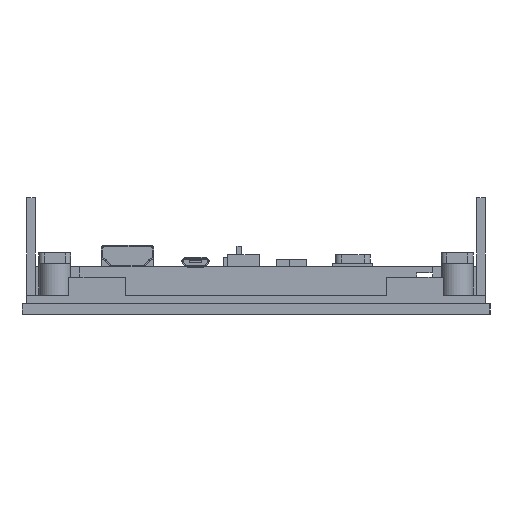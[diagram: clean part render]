
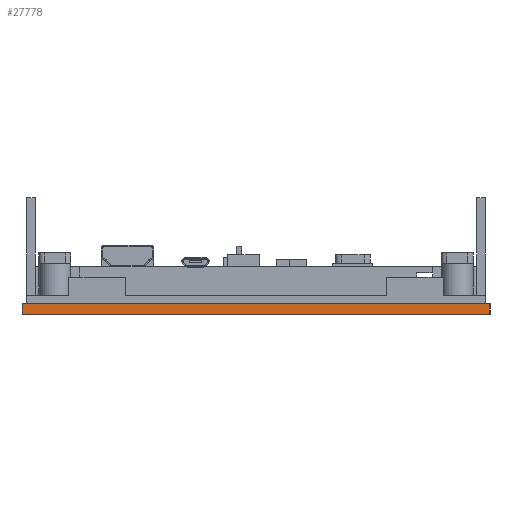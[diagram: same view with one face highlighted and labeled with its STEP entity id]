
A CAD part, left-side view. The second image highlights one B-rep face of the part: STEP entity #27778.
In plain terms, the highlighted planar face has unit normal (-1, 0, 0).
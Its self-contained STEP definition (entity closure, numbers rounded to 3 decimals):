
#27778 = ADVANCED_FACE('',(#27779),#27793,.F.);
#27779 = FACE_BOUND('',#27780,.F.);
#27780 = EDGE_LOOP('',(#27781,#27816,#27844,#27872));
#27781 = ORIENTED_EDGE('',*,*,#27782,.F.);
#27782 = EDGE_CURVE('',#27783,#27785,#27787,.T.);
#27783 = VERTEX_POINT('',#27784);
#27784 = CARTESIAN_POINT('',(-127.,-66.275,0.));
#27785 = VERTEX_POINT('',#27786);
#27786 = CARTESIAN_POINT('',(-127.,-66.275,3.));
#27787 = SURFACE_CURVE('',#27788,(#27792,#27804),.PCURVE_S1.);
#27788 = LINE('',#27789,#27790);
#27789 = CARTESIAN_POINT('',(-127.,-66.275,0.));
#27790 = VECTOR('',#27791,1.);
#27791 = DIRECTION('',(0.,0.,1.));
#27792 = PCURVE('',#27793,#27798);
#27793 = PLANE('',#27794);
#27794 = AXIS2_PLACEMENT_3D('',#27795,#27796,#27797);
#27795 = CARTESIAN_POINT('',(-127.,-66.275,0.));
#27796 = DIRECTION('',(1.,0.,0.));
#27797 = DIRECTION('',(0.,0.,1.));
#27798 = DEFINITIONAL_REPRESENTATION('',(#27799),#27803);
#27799 = LINE('',#27800,#27801);
#27800 = CARTESIAN_POINT('',(0.,0.));
#27801 = VECTOR('',#27802,1.);
#27802 = DIRECTION('',(1.,0.));
#27803 = ( GEOMETRIC_REPRESENTATION_CONTEXT(2) 
PARAMETRIC_REPRESENTATION_CONTEXT() REPRESENTATION_CONTEXT('2D SPACE',''
  ) );
#27804 = PCURVE('',#27805,#27810);
#27805 = PLANE('',#27806);
#27806 = AXIS2_PLACEMENT_3D('',#27807,#27808,#27809);
#27807 = CARTESIAN_POINT('',(-127.,-66.275,0.));
#27808 = DIRECTION('',(0.,1.,0.));
#27809 = DIRECTION('',(0.,0.,1.));
#27810 = DEFINITIONAL_REPRESENTATION('',(#27811),#27815);
#27811 = LINE('',#27812,#27813);
#27812 = CARTESIAN_POINT('',(0.,0.));
#27813 = VECTOR('',#27814,1.);
#27814 = DIRECTION('',(1.,0.));
#27815 = ( GEOMETRIC_REPRESENTATION_CONTEXT(2) 
PARAMETRIC_REPRESENTATION_CONTEXT() REPRESENTATION_CONTEXT('2D SPACE',''
  ) );
#27816 = ORIENTED_EDGE('',*,*,#27817,.T.);
#27817 = EDGE_CURVE('',#27783,#27818,#27820,.T.);
#27818 = VERTEX_POINT('',#27819);
#27819 = CARTESIAN_POINT('',(-127.,66.275,0.));
#27820 = SURFACE_CURVE('',#27821,(#27825,#27832),.PCURVE_S1.);
#27821 = LINE('',#27822,#27823);
#27822 = CARTESIAN_POINT('',(-127.,-66.275,0.));
#27823 = VECTOR('',#27824,1.);
#27824 = DIRECTION('',(0.,1.,0.));
#27825 = PCURVE('',#27793,#27826);
#27826 = DEFINITIONAL_REPRESENTATION('',(#27827),#27831);
#27827 = LINE('',#27828,#27829);
#27828 = CARTESIAN_POINT('',(0.,0.));
#27829 = VECTOR('',#27830,1.);
#27830 = DIRECTION('',(0.,-1.));
#27831 = ( GEOMETRIC_REPRESENTATION_CONTEXT(2) 
PARAMETRIC_REPRESENTATION_CONTEXT() REPRESENTATION_CONTEXT('2D SPACE',''
  ) );
#27832 = PCURVE('',#27833,#27838);
#27833 = PLANE('',#27834);
#27834 = AXIS2_PLACEMENT_3D('',#27835,#27836,#27837);
#27835 = CARTESIAN_POINT('',(-127.,-66.275,0.));
#27836 = DIRECTION('',(0.,0.,1.));
#27837 = DIRECTION('',(1.,0.,0.));
#27838 = DEFINITIONAL_REPRESENTATION('',(#27839),#27843);
#27839 = LINE('',#27840,#27841);
#27840 = CARTESIAN_POINT('',(0.,0.));
#27841 = VECTOR('',#27842,1.);
#27842 = DIRECTION('',(0.,1.));
#27843 = ( GEOMETRIC_REPRESENTATION_CONTEXT(2) 
PARAMETRIC_REPRESENTATION_CONTEXT() REPRESENTATION_CONTEXT('2D SPACE',''
  ) );
#27844 = ORIENTED_EDGE('',*,*,#27845,.T.);
#27845 = EDGE_CURVE('',#27818,#27846,#27848,.T.);
#27846 = VERTEX_POINT('',#27847);
#27847 = CARTESIAN_POINT('',(-127.,66.275,3.));
#27848 = SURFACE_CURVE('',#27849,(#27853,#27860),.PCURVE_S1.);
#27849 = LINE('',#27850,#27851);
#27850 = CARTESIAN_POINT('',(-127.,66.275,0.));
#27851 = VECTOR('',#27852,1.);
#27852 = DIRECTION('',(0.,0.,1.));
#27853 = PCURVE('',#27793,#27854);
#27854 = DEFINITIONAL_REPRESENTATION('',(#27855),#27859);
#27855 = LINE('',#27856,#27857);
#27856 = CARTESIAN_POINT('',(0.,-132.55));
#27857 = VECTOR('',#27858,1.);
#27858 = DIRECTION('',(1.,0.));
#27859 = ( GEOMETRIC_REPRESENTATION_CONTEXT(2) 
PARAMETRIC_REPRESENTATION_CONTEXT() REPRESENTATION_CONTEXT('2D SPACE',''
  ) );
#27860 = PCURVE('',#27861,#27866);
#27861 = PLANE('',#27862);
#27862 = AXIS2_PLACEMENT_3D('',#27863,#27864,#27865);
#27863 = CARTESIAN_POINT('',(-127.,66.275,0.));
#27864 = DIRECTION('',(0.,1.,0.));
#27865 = DIRECTION('',(0.,0.,1.));
#27866 = DEFINITIONAL_REPRESENTATION('',(#27867),#27871);
#27867 = LINE('',#27868,#27869);
#27868 = CARTESIAN_POINT('',(0.,0.));
#27869 = VECTOR('',#27870,1.);
#27870 = DIRECTION('',(1.,0.));
#27871 = ( GEOMETRIC_REPRESENTATION_CONTEXT(2) 
PARAMETRIC_REPRESENTATION_CONTEXT() REPRESENTATION_CONTEXT('2D SPACE',''
  ) );
#27872 = ORIENTED_EDGE('',*,*,#27873,.F.);
#27873 = EDGE_CURVE('',#27785,#27846,#27874,.T.);
#27874 = SURFACE_CURVE('',#27875,(#27879,#27886),.PCURVE_S1.);
#27875 = LINE('',#27876,#27877);
#27876 = CARTESIAN_POINT('',(-127.,-66.275,3.));
#27877 = VECTOR('',#27878,1.);
#27878 = DIRECTION('',(0.,1.,0.));
#27879 = PCURVE('',#27793,#27880);
#27880 = DEFINITIONAL_REPRESENTATION('',(#27881),#27885);
#27881 = LINE('',#27882,#27883);
#27882 = CARTESIAN_POINT('',(3.,0.));
#27883 = VECTOR('',#27884,1.);
#27884 = DIRECTION('',(0.,-1.));
#27885 = ( GEOMETRIC_REPRESENTATION_CONTEXT(2) 
PARAMETRIC_REPRESENTATION_CONTEXT() REPRESENTATION_CONTEXT('2D SPACE',''
  ) );
#27886 = PCURVE('',#27887,#27892);
#27887 = PLANE('',#27888);
#27888 = AXIS2_PLACEMENT_3D('',#27889,#27890,#27891);
#27889 = CARTESIAN_POINT('',(-127.,-66.275,3.));
#27890 = DIRECTION('',(0.,0.,1.));
#27891 = DIRECTION('',(1.,0.,0.));
#27892 = DEFINITIONAL_REPRESENTATION('',(#27893),#27897);
#27893 = LINE('',#27894,#27895);
#27894 = CARTESIAN_POINT('',(0.,0.));
#27895 = VECTOR('',#27896,1.);
#27896 = DIRECTION('',(0.,1.));
#27897 = ( GEOMETRIC_REPRESENTATION_CONTEXT(2) 
PARAMETRIC_REPRESENTATION_CONTEXT() REPRESENTATION_CONTEXT('2D SPACE',''
  ) );
